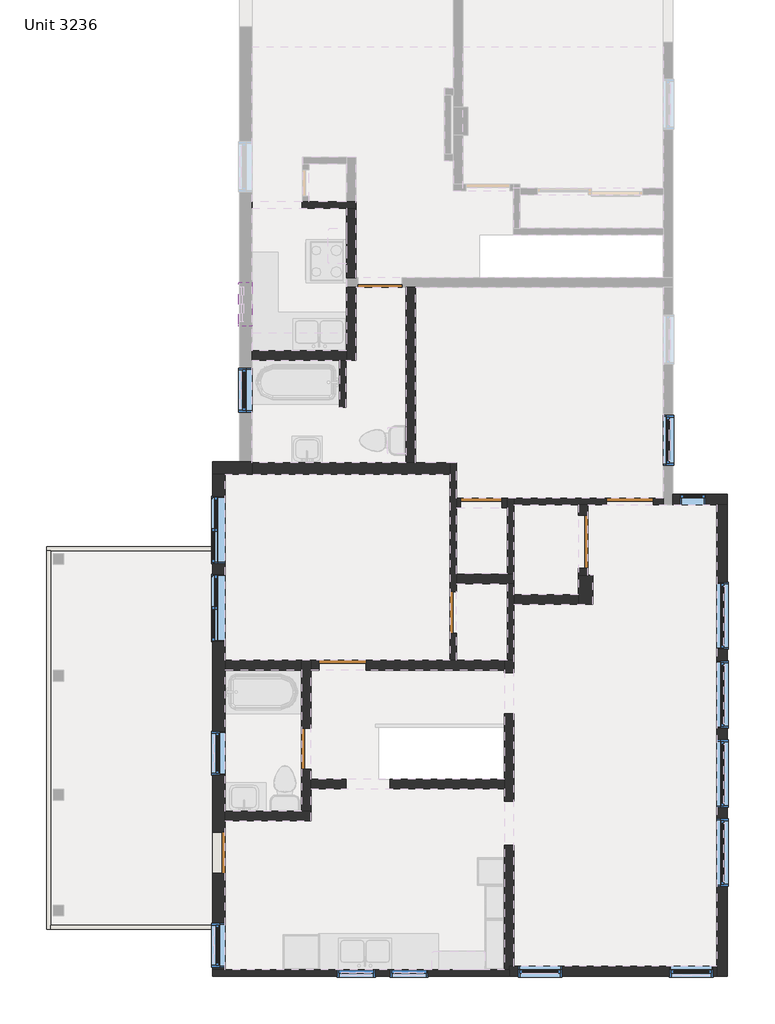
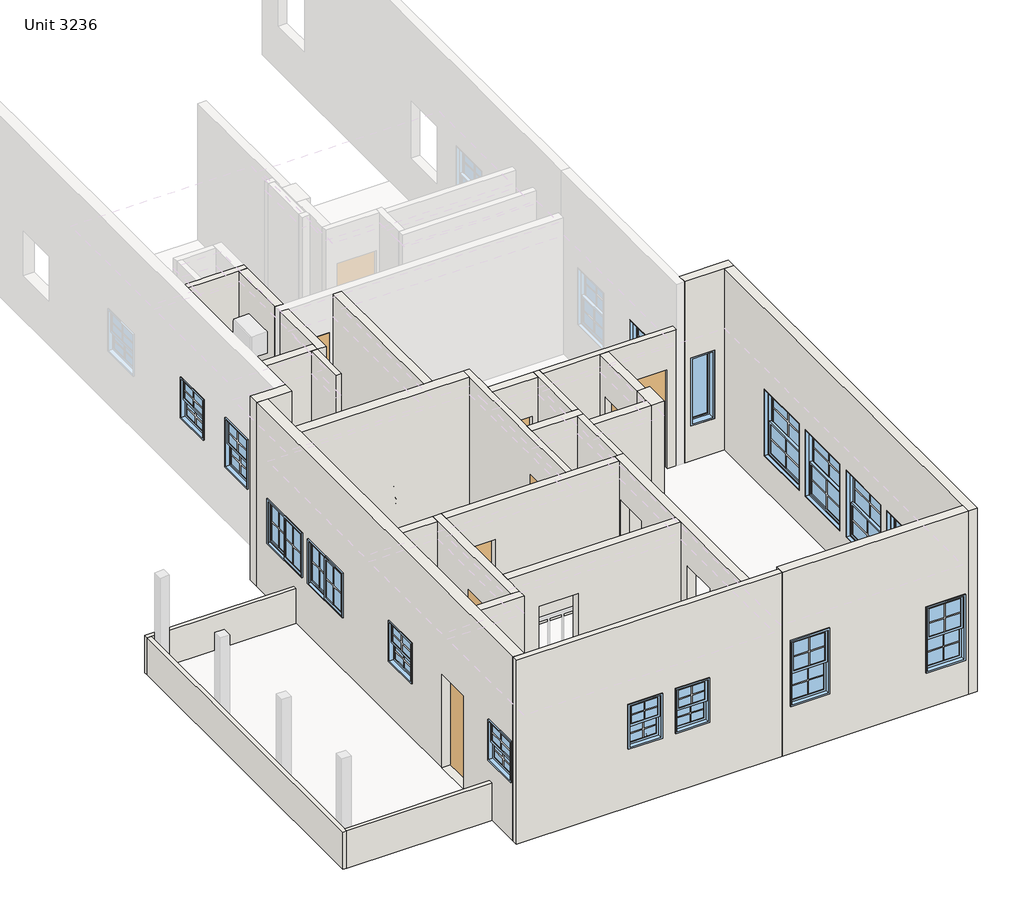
# One storey, part 1 of 3: 31 walls, 16 windows, 8 doors.
"""IFC4 building model written with IfcOpenShell, lengths in millimetres."""

from ifc_helpers import new_model, si_unit, frame, origin, place, context, project, spatial, polyline, outline, extrude, faceted_brep, transform, mapped, element, save
from components import door_a2d1f694, door_2ab74324, door_61c99268, door_cfc43ca0, door_2963ea5e, door_46b09886, door_4f417b9d, window_eb113033, window_a33a3c81, window_10d21590, window_480b3f3e, window_862b37cb, window_a6173331, window_cbb5bfc6, window_e64f82fc

model = new_model("IFC4")

# Units and contexts
model_context = context("Model", 3, world=origin())
ifc_project = project(units=[si_unit("LENGTHUNIT", "METRE", prefix="MILLI")], contexts=[model_context])

# Site, building, storey
site = spatial("IfcSite", under=ifc_project)
building = spatial("IfcBuilding", under=site)
storey = spatial("IfcBuildingStorey", under=building, Name="Unit 3236", Elevation=2895.6)

# Doors
placement = place(None, origin())
door_shape = door_a2d1f694(model_context)
element("IfcDoor", 1, ObjectType="Planitar - Single Door_Flush Panel : 2'-4\" x 6'-3\"", at=placement, inside=storey, context=model_context, shape_type="MappedRepresentation", body=[
    mapped(door_shape, transform((-3872.9302402, -7557.1461647, 2895.6), x_axis=(0.0, 1.0, 0.0), y_axis=(-1.0, 0.0, 0.0), z_axis=(0.0, 0.0, 1.0))),
])
door_2_shape = door_2ab74324(model_context)
element("IfcDoor", 2, ObjectType="Planitar - Single Door_Flush Panel : 2'-4\" x 6'-8\"", at=placement, inside=storey, context=model_context, shape_type="MappedRepresentation", body=[
    mapped(door_2_shape, transform((191.0697598, -3391.5461647, 2895.6), x_axis=(0.0, -1.0, 0.0), y_axis=(1.0, 0.0, 0.0), z_axis=(0.0, 0.0, 1.0))),
])
door_3_shape = door_61c99268(model_context)
element("IfcDoor", 3, ObjectType="Planitar - Single Door_Flush Panel : 2'-4\" x 6'-8\"", at=placement, inside=storey, context=model_context, shape_type="MappedRepresentation", body=[
    mapped(door_3_shape, transform((-2355.2802402, -5753.7461647, 2895.6), x_axis=(0.0, -1.0, 0.0), y_axis=(1.0, 0.0, 0.0), z_axis=(0.0, 0.0, 1.0))),
])
element("IfcDoor", 4, ObjectType="Planitar - Single Door_Flush Panel : 2'-4\" x 6'-8\"", at=placement, inside=storey, context=model_context, shape_type="MappedRepresentation", body=[
    mapped(door_3_shape, transform((673.6697598, -1492.8961647, 2895.6), x_axis=(-1.0, 0.0, 0.0), y_axis=(0.0, -1.0, 0.0), z_axis=(0.0, 0.0, 1.0))),
])
door_4_shape = door_cfc43ca0(model_context)
element("IfcDoor", 5, ObjectType="Planitar - Single Door_Flush Panel : 2'-6\" x 6'-8\"", at=placement, inside=storey, context=model_context, shape_type="MappedRepresentation", body=[
    mapped(door_4_shape, transform((-1082.1052402, 2323.4538353, 2895.6), x_axis=(-1.0, 0.0, 0.0), y_axis=(0.0, -1.0, 0.0), z_axis=(0.0, 0.0, 1.0))),
])
door_5_shape = door_2963ea5e(model_context)
element("IfcDoor", 6, ObjectType="Planitar - Single Door_Flush Panel : 2'-8\" x 6'-8\"", at=placement, inside=storey, context=model_context, shape_type="MappedRepresentation", body=[
    mapped(door_5_shape, transform((-1732.9802402, -4305.9461647, 2895.6), x_axis=(1.0, 0.0, 0.0), y_axis=(0.0, 1.0, 0.0), z_axis=(0.0, 0.0, 1.0))),
])
door_6_shape = door_46b09886(model_context)
element("IfcDoor", 7, ObjectType="Planitar - Single Door_Flush Panel : 2'-8\" x 6'-8\"", at=placement, inside=storey, context=model_context, shape_type="MappedRepresentation", body=[
    mapped(door_6_shape, transform((3251.7697598, -1467.4961647, 2895.6), x_axis=(1.0, 0.0, 0.0), y_axis=(0.0, 1.0, 0.0), z_axis=(0.0, 0.0, 1.0))),
])
door_7_shape = door_4f417b9d(model_context)
element("IfcDoor", 8, ObjectType="Planitar - Single Door_Flush Panel : 3'-0\" x 6'-8\"", at=placement, inside=storey, context=model_context, shape_type="MappedRepresentation", body=[
    mapped(door_7_shape, transform((2438.9697598, -2165.9961647, 2895.6), x_axis=(0.0, 1.0, 0.0), y_axis=(-1.0, 0.0, 0.0), z_axis=(0.0, 0.0, 1.0))),
])

# Walls
element("IfcWall", 9, ObjectType="Planitar - Generic 7\"", at=placement, inside=storey, context=model_context, shape_type="Brep", body=[
    faceted_brep([(3994.7197598, -1524.6461647, 2844.8), (4763.0697598, -1524.6461647, 2844.8), (4940.8697598, -1524.6461647, 2844.8), (4940.8697598, -1524.6461647, 6604.0), (4763.0697598, -1524.6461647, 6604.0), (3994.7197598, -1524.6461647, 6604.0), (3994.7197598, -1524.6461647, 2895.6), (4115.3697598, -1524.6461647, 3606.8), (4115.3697598, -1524.6461647, 5003.8), (4572.5697598, -1524.6461647, 5003.8), (4572.5697598, -1524.6461647, 3606.8), (4940.8697598, -1346.8461647, 2844.8), (3994.7197598, -1346.8461647, 2844.8), (3994.7197598, -1346.8461647, 6604.0), (4940.8697598, -1346.8461647, 6604.0), (4115.3697598, -1346.8461647, 5003.8), (4115.3697598, -1346.8461647, 3606.8), (4572.5697598, -1346.8461647, 3606.8), (4572.5697598, -1346.8461647, 5003.8)], [[[0, 1, 2, 3, 4, 5, 6], [7, 8, 9, 10]], [[11, 12, 13, 14], [15, 16, 17, 18]], [[2, 1, 0, 12, 11]], [[5, 4, 3, 14, 13]], [[3, 2, 11, 14]], [[7, 16, 15, 8]], [[8, 15, 18, 9]], [[16, 7, 10, 17]], [[12, 0, 6, 5, 13]], [[17, 10, 9, 18]]]),
])
element("IfcWall", 10, ObjectType="Planitar - Generic 7\"", at=placement, inside=storey, context=model_context, shape_type="Brep", body=[
    faceted_brep([(4763.0697598, -1524.6461647, 2844.8), (4763.0697598, -9519.2961647, 2844.8), (4763.0697598, -9697.0961647, 2844.8), (4763.0697598, -9697.0961647, 6604.0), (4763.0697598, -9519.2961647, 6604.0), (4763.0697598, -1524.6461647, 6604.0), (4763.0697598, -6966.5961647, 4953.0), (4763.0697598, -8134.9961647, 4953.0), (4763.0697598, -8134.9961647, 3581.4), (4763.0697598, -6966.5961647, 3581.4), (4763.0697598, -5601.3461647, 4953.0), (4763.0697598, -6769.7461647, 4953.0), (4763.0697598, -6769.7461647, 3581.4), (4763.0697598, -5601.3461647, 3581.4), (4763.0697598, -4229.7461647, 4953.0), (4763.0697598, -5398.1461647, 4953.0), (4763.0697598, -5398.1461647, 3581.4), (4763.0697598, -4229.7461647, 3581.4), (4763.0697598, -2864.4961647, 4953.0), (4763.0697598, -4032.8961647, 4953.0), (4763.0697598, -4032.8961647, 3581.4), (4763.0697598, -2864.4961647, 3581.4), (4940.8697598, -1524.6461647, 2844.8), (4940.8697598, -1524.6461647, 6604.0), (4940.8697598, -9697.0961647, 6604.0), (4940.8697598, -9697.0961647, 2844.8), (4940.8697598, -6966.5961647, 4953.0), (4940.8697598, -6966.5961647, 3581.4), (4940.8697598, -8134.9961647, 3581.4), (4940.8697598, -8134.9961647, 4953.0), (4940.8697598, -5601.3461647, 4953.0), (4940.8697598, -5601.3461647, 3581.4), (4940.8697598, -6769.7461647, 3581.4), (4940.8697598, -6769.7461647, 4953.0), (4940.8697598, -4229.7461647, 4953.0), (4940.8697598, -4229.7461647, 3581.4), (4940.8697598, -5398.1461647, 3581.4), (4940.8697598, -5398.1461647, 4953.0), (4940.8697598, -2864.4961647, 4953.0), (4940.8697598, -2864.4961647, 3581.4), (4940.8697598, -4032.8961647, 3581.4), (4940.8697598, -4032.8961647, 4953.0)], [[[0, 1, 2, 3, 4, 5], [6, 7, 8, 9], [10, 11, 12, 13], [14, 15, 16, 17], [18, 19, 20, 21]], [[22, 23, 24, 25], [26, 27, 28, 29], [30, 31, 32, 33], [34, 35, 36, 37], [38, 39, 40, 41]], [[2, 1, 0, 22, 25]], [[5, 4, 3, 24, 23]], [[0, 5, 23, 22]], [[3, 2, 25, 24]], [[27, 26, 6, 9]], [[28, 27, 9, 8]], [[29, 28, 8, 7]], [[26, 29, 7, 6]], [[31, 30, 10, 13]], [[32, 31, 13, 12]], [[33, 32, 12, 11]], [[30, 33, 11, 10]], [[35, 34, 14, 17]], [[36, 35, 17, 16]], [[37, 36, 16, 15]], [[34, 37, 15, 14]], [[39, 38, 18, 21]], [[40, 39, 21, 20]], [[41, 40, 20, 19]], [[38, 41, 19, 18]]]),
])
element("IfcWall", 11, ObjectType="Planitar - Generic 7\"", at=placement, inside=storey, context=model_context, shape_type="Brep", body=[
    faceted_brep([(4763.0697598, -9519.2961647, 2844.8), (1162.6197598, -9519.2961647, 2844.8), (1162.6197598, -9519.2961647, 2895.6), (1162.6197598, -9519.2961647, 5689.6), (1162.6197598, -9519.2961647, 6604.0), (4763.0697598, -9519.2961647, 6604.0), (2077.0197598, -9519.2961647, 3810.0), (2077.0197598, -9519.2961647, 5156.2), (1315.0197598, -9519.2961647, 5156.2), (1315.0197598, -9519.2961647, 3810.0), (3937.5697598, -9519.2961647, 3581.4), (4699.5697598, -9519.2961647, 3581.4), (4699.5697598, -9519.2961647, 4927.6), (3937.5697598, -9519.2961647, 4927.6), (1162.6197598, -9697.0961647, 2844.8), (4763.0697598, -9697.0961647, 2844.8), (4763.0697598, -9697.0961647, 6604.0), (1162.6197598, -9697.0961647, 6604.0), (2077.0197598, -9697.0961647, 5156.2), (2077.0197598, -9697.0961647, 3810.0), (1315.0197598, -9697.0961647, 3810.0), (1315.0197598, -9697.0961647, 5156.2), (4699.5697598, -9697.0961647, 3581.4), (3937.5697598, -9697.0961647, 3581.4), (3937.5697598, -9697.0961647, 4927.6), (4699.5697598, -9697.0961647, 4927.6), (1162.6197598, -9582.7961647, 2844.8), (1162.6197598, -9582.7961647, 6604.0)], [[[0, 1, 2, 3, 4, 5], [6, 7, 8, 9], [10, 11, 12, 13]], [[14, 15, 16, 17], [18, 19, 20, 21], [22, 23, 24, 25]], [[1, 0, 15, 14, 26]], [[5, 4, 27, 17, 16]], [[0, 5, 16, 15]], [[19, 18, 7, 6]], [[20, 19, 6, 9]], [[21, 20, 9, 8]], [[18, 21, 8, 7]], [[22, 11, 10, 23]], [[23, 10, 13, 24]], [[24, 13, 12, 25]], [[11, 22, 25, 12]], [[1, 26, 14, 17, 27, 4, 3, 2]]]),
])
element("IfcWall", 12, ObjectType="Planitar - Generic 4 1/2\"", at=placement, inside=storey, context=model_context, shape_type="Brep", body=[
    faceted_brep([(1162.6197598, -9582.7961647, 6604.0), (1162.6197598, -9582.7961647, 5689.6), (1162.6197598, -9582.7961647, 2895.6), (1162.6197598, -9582.7961647, 2844.8), (-3764.9802402, -9582.7961647, 2844.8), (-3980.8802402, -9582.7961647, 2844.8), (-3980.8802402, -9582.7961647, 6604.0), (-3764.9802402, -9582.7961647, 6604.0), (-1161.4802402, -9582.7961647, 4953.0), (-1821.8802402, -9582.7961647, 4953.0), (-1821.8802402, -9582.7961647, 4038.6), (-1161.4802402, -9582.7961647, 4038.6), (-247.0802402, -9582.7961647, 4953.0), (-907.4802402, -9582.7961647, 4953.0), (-907.4802402, -9582.7961647, 4038.6), (-247.0802402, -9582.7961647, 4038.6), (1162.6197598, -9697.0961647, 2844.8), (1162.6197598, -9697.0961647, 6604.0), (-3980.8802402, -9697.0961647, 6604.0), (-3980.8802402, -9697.0961647, 2844.8), (-1161.4802402, -9697.0961647, 4953.0), (-1161.4802402, -9697.0961647, 4038.6), (-1821.8802402, -9697.0961647, 4038.6), (-1821.8802402, -9697.0961647, 4953.0), (-247.0802402, -9697.0961647, 4953.0), (-247.0802402, -9697.0961647, 4038.6), (-907.4802402, -9697.0961647, 4038.6), (-907.4802402, -9697.0961647, 4953.0)], [[[0, 1, 2, 3, 4, 5, 6, 7], [8, 9, 10, 11], [12, 13, 14, 15]], [[16, 17, 18, 19], [20, 21, 22, 23], [24, 25, 26, 27]], [[5, 4, 3, 16, 19]], [[0, 7, 6, 18, 17]], [[6, 5, 19, 18]], [[21, 20, 8, 11]], [[22, 21, 11, 10]], [[23, 22, 10, 9]], [[20, 23, 9, 8]], [[25, 24, 12, 15]], [[26, 25, 15, 14]], [[27, 26, 14, 13]], [[24, 27, 13, 12]], [[0, 17, 16, 3, 2, 1]]]),
])
element("IfcWall", 13, ObjectType="Planitar - Generic 8 1/2\"", at=placement, inside=storey, context=model_context, shape_type="Brep", body=[
    faceted_brep([(-3764.9802402, -9582.7961647, 2844.8), (-3764.9802402, -997.5961647, 2844.8), (-3764.9802402, -997.5961647, 6604.0), (-3764.9802402, -9582.7961647, 6604.0), (-3764.9802402, -7912.7461647, 2895.6), (-3764.9802402, -7912.7461647, 4800.6), (-3764.9802402, -7201.5461647, 4800.6), (-3764.9802402, -7201.5461647, 2895.6), (-3764.9802402, -1375.4993647, 4876.8), (-3764.9802402, -1375.4993647, 3962.4), (-3764.9802402, -2543.8993647, 3962.4), (-3764.9802402, -2543.8993647, 4876.8), (-3764.9802402, -2731.1461647, 4876.8), (-3764.9802402, -2731.1461647, 3962.4), (-3764.9802402, -3899.5461647, 3962.4), (-3764.9802402, -3899.5461647, 4876.8), (-3764.9802402, -6210.9461647, 4851.4), (-3764.9802402, -5448.9461647, 4851.4), (-3764.9802402, -5448.9461647, 4013.2), (-3764.9802402, -6210.9461647, 4013.2), (-3764.9802402, -9538.3461647, 4851.4), (-3764.9802402, -8776.3461647, 4851.4), (-3764.9802402, -8776.3461647, 4013.2), (-3764.9802402, -9538.3461647, 4013.2), (-3980.8802402, -9582.7961647, 2844.8), (-3980.8802402, -9582.7961647, 6604.0), (-3980.8802402, -997.5961647, 6604.0), (-3980.8802402, -997.5961647, 2844.8), (-3980.8802402, -2248.5461647, 2844.8), (-3980.8802402, -2324.7461647, 2844.8), (-3980.8802402, -8808.0961647, 2844.8), (-3980.8802402, -8884.2961647, 2844.8), (-3980.8802402, -7912.7461647, 2895.6), (-3980.8802402, -7201.5461647, 2895.6), (-3980.8802402, -7201.5461647, 4800.6), (-3980.8802402, -7912.7461647, 4800.6), (-3980.8802402, -1375.4993647, 4876.8), (-3980.8802402, -2543.8993647, 4876.8), (-3980.8802402, -2543.8993647, 3962.4), (-3980.8802402, -1375.4993647, 3962.4), (-3980.8802402, -2731.1461647, 4876.8), (-3980.8802402, -3899.5461647, 4876.8), (-3980.8802402, -3899.5461647, 3962.4), (-3980.8802402, -2731.1461647, 3962.4), (-3980.8802402, -6210.9461647, 4851.4), (-3980.8802402, -6210.9461647, 4013.2), (-3980.8802402, -5448.9461647, 4013.2), (-3980.8802402, -5448.9461647, 4851.4), (-3980.8802402, -9538.3461647, 4851.4), (-3980.8802402, -9538.3461647, 4013.2), (-3980.8802402, -8776.3461647, 4013.2), (-3980.8802402, -8776.3461647, 4851.4)], [[[0, 1, 2, 3], [4, 5, 6, 7], [8, 9, 10, 11], [12, 13, 14, 15], [16, 17, 18, 19], [20, 21, 22, 23]], [[24, 25, 26, 27, 28, 29, 30, 31], [32, 33, 34, 35], [36, 37, 38, 39], [40, 41, 42, 43], [44, 45, 46, 47], [48, 49, 50, 51]], [[1, 0, 24, 31, 30, 29, 28, 27]], [[3, 2, 26, 25]], [[0, 3, 25, 24]], [[33, 32, 4, 7]], [[34, 33, 7, 6]], [[35, 34, 6, 5]], [[32, 35, 5, 4]], [[9, 8, 36, 39]], [[10, 9, 39, 38]], [[11, 10, 38, 37]], [[8, 11, 37, 36]], [[13, 12, 40, 43]], [[14, 13, 43, 42]], [[15, 14, 42, 41]], [[12, 15, 41, 40]], [[45, 44, 16, 19]], [[46, 45, 19, 18]], [[47, 46, 18, 17]], [[44, 47, 17, 16]], [[49, 48, 20, 23]], [[50, 49, 23, 22]], [[51, 50, 22, 21]], [[48, 51, 21, 20]], [[2, 1, 27, 26]]]),
])
element("IfcWall", 14, ObjectType="Planitar - Generic 6 1/2\"", at=placement, inside=storey, context=model_context, shape_type="Brep", body=[
    faceted_brep([(1245.1697598, -4432.9461647, 4927.6), (1245.1697598, -4432.9461647, 2895.6), (1245.1697598, -4223.3961647, 2895.6), (1245.1697598, -4223.3961647, 5689.6), (1245.1697598, -9519.2961647, 5689.6), (1245.1697598, -9519.2961647, 2895.6), (1245.1697598, -7423.7961647, 2895.6), (1245.1697598, -7423.7961647, 4927.6), (1245.1697598, -6661.7961647, 4927.6), (1245.1697598, -6661.7961647, 2895.6), (1245.1697598, -5144.1461647, 2895.6), (1245.1697598, -5144.1461647, 4927.6), (1080.0697598, -4223.3961647, 2895.6), (1080.0697598, -4388.4961647, 2895.6), (1080.0697598, -4432.9461647, 2895.6), (1080.0697598, -4432.9461647, 4927.6), (1080.0697598, -5144.1461647, 4927.6), (1080.0697598, -5144.1461647, 2895.6), (1080.0697598, -6280.7961647, 2895.6), (1080.0697598, -6445.8961647, 2895.6), (1080.0697598, -6661.7961647, 2895.6), (1080.0697598, -6661.7961647, 4927.6), (1080.0697598, -7423.7961647, 4927.6), (1080.0697598, -7423.7961647, 2895.6), (1080.0697598, -9582.7961647, 2895.6), (1080.0697598, -9582.7961647, 5689.6), (1080.0697598, -6445.8961647, 5689.6), (1080.0697598, -6280.7961647, 5689.6), (1080.0697598, -4388.4961647, 5689.6), (1080.0697598, -4223.3961647, 5689.6), (1162.6197598, -9519.2961647, 2895.6), (1162.6197598, -9582.7961647, 2895.6), (1130.8697598, -4223.3961647, 2895.6), (1130.8697598, -4223.3961647, 5689.6), (1162.6197598, -9582.7961647, 5689.6), (1162.6197598, -9519.2961647, 5689.6)], [[[0, 1, 2, 3, 4, 5, 6, 7, 8, 9, 10, 11]], [[12, 13, 14, 15, 16, 17, 18, 19, 20, 21, 22, 23, 24, 25, 26, 27, 28, 29]], [[24, 23, 6, 5, 30, 31]], [[10, 9, 20, 19, 18, 17]], [[2, 1, 14, 13, 12, 32]], [[4, 3, 33, 29, 28, 27, 26, 25, 34, 35]], [[5, 4, 35, 30]], [[35, 34, 31, 30]], [[34, 25, 24, 31]], [[3, 2, 32, 12, 29, 33]], [[9, 8, 21, 20]], [[7, 6, 23, 22]], [[8, 7, 22, 21]], [[17, 16, 11, 10]], [[15, 14, 1, 0]], [[16, 15, 0, 11]]]),
])
element("IfcWall", 15, ObjectType="Planitar - Generic 6 1/2\"", at=placement, inside=storey, context=model_context, shape_type="Brep", body=[
    faceted_brep([(-3764.9802402, -7004.6961647, 2895.6), (-2272.7302402, -7004.6961647, 2895.6), (-2272.7302402, -7004.6961647, 5689.6), (-3764.9802402, -7004.6961647, 5689.6), (-3764.9802402, -6839.5961647, 2895.6), (-3764.9802402, -6839.5961647, 5689.6), (-2437.8302402, -6839.5961647, 5689.6), (-2272.7302402, -6839.5961647, 5689.6), (-2272.7302402, -6839.5961647, 2895.6), (-2437.8302402, -6839.5961647, 2895.6)], [[[0, 1, 2, 3]], [[4, 5, 6, 7, 8, 9]], [[1, 0, 4, 9, 8]], [[3, 2, 7, 6, 5]], [[0, 3, 5, 4]], [[2, 1, 8, 7]]]),
])
element("IfcWall", 16, ObjectType="Planitar - Generic 6 1/2\"", at=placement, inside=storey, context=model_context, shape_type="Brep", body=[
    faceted_brep([(-2272.7302402, -6839.5961647, 2895.6), (-2272.7302402, -6445.8961647, 2895.6), (-2272.7302402, -6280.7961647, 2895.6), (-2272.7302402, -6109.3461647, 2895.6), (-2272.7302402, -6109.3461647, 4927.6), (-2272.7302402, -5398.1461647, 4927.6), (-2272.7302402, -5398.1461647, 2895.6), (-2272.7302402, -4388.4961647, 2895.6), (-2272.7302402, -4223.3961647, 2895.6), (-2272.7302402, -4223.3961647, 5689.6), (-2272.7302402, -4388.4961647, 5689.6), (-2272.7302402, -6280.7961647, 5689.6), (-2272.7302402, -6445.8961647, 5689.6), (-2272.7302402, -6839.5961647, 5689.6), (-2437.8302402, -6109.3461647, 4927.6), (-2437.8302402, -6109.3461647, 2895.6), (-2437.8302402, -6839.5961647, 2895.6), (-2437.8302402, -6839.5961647, 5689.6), (-2437.8302402, -4388.4961647, 5689.6), (-2437.8302402, -4223.3961647, 5689.6), (-2437.8302402, -4223.3961647, 2895.6), (-2437.8302402, -4388.4961647, 2895.6), (-2437.8302402, -5398.1461647, 2895.6), (-2437.8302402, -5398.1461647, 4927.6)], [[[0, 1, 2, 3, 4, 5, 6, 7, 8, 9, 10, 11, 12, 13]], [[14, 15, 16, 17, 18, 19, 20, 21, 22, 23]], [[16, 15, 3, 2, 1, 0]], [[22, 21, 20, 8, 7, 6]], [[13, 12, 11, 10, 9, 19, 18, 17]], [[0, 13, 17, 16]], [[9, 8, 20, 19]], [[4, 3, 15, 14]], [[5, 4, 14, 23]], [[6, 5, 23, 22]]]),
])
element("IfcWall", 17, ObjectType="Planitar - Generic 6 1/2\"", at=placement, inside=storey, context=model_context, shape_type="Brep", body=[
    faceted_brep([(-1326.5802402, -4388.4961647, 4927.6), (-1326.5802402, -4388.4961647, 2895.6), (1080.0697598, -4388.4961647, 2895.6), (1080.0697598, -4388.4961647, 5689.6), (-2272.7302402, -4388.4961647, 5689.6), (-2272.7302402, -4388.4961647, 2895.6), (-2139.3802402, -4388.4961647, 2895.6), (-2139.3802402, -4388.4961647, 4927.6), (1080.0697598, -4223.3961647, 2895.6), (248.2197598, -4223.3961647, 2895.6), (133.9197598, -4223.3961647, 2895.6), (-1326.5802402, -4223.3961647, 2895.6), (-1326.5802402, -4223.3961647, 4927.6), (-2139.3802402, -4223.3961647, 4927.6), (-2139.3802402, -4223.3961647, 2895.6), (-2272.7302402, -4223.3961647, 2895.6), (-2272.7302402, -4223.3961647, 5689.6), (133.9197598, -4223.3961647, 5689.6), (248.2197598, -4223.3961647, 5689.6), (1080.0697598, -4223.3961647, 5689.6)], [[[0, 1, 2, 3, 4, 5, 6, 7]], [[8, 9, 10, 11, 12, 13, 14, 15, 16, 17, 18, 19]], [[6, 5, 15, 14]], [[2, 1, 11, 10, 9, 8]], [[4, 3, 19, 18, 17, 16]], [[5, 4, 16, 15]], [[3, 2, 8, 19]], [[12, 11, 1, 0]], [[13, 12, 0, 7]], [[14, 13, 7, 6]]]),
])
element("IfcWall", 18, ObjectType="Planitar - Generic 6 1/2\"", at=placement, inside=storey, context=model_context, shape_type="SweptSolid", body=[
    extrude(outline(polyline([(-3764.9802402, -4223.3961647), (-2437.8302402, -4223.3961647), (-2437.8302402, -4388.4961647), (-3764.9802402, -4388.4961647), (-3764.9802402, -4223.3961647)])), frame((0.0, 0.0, 2895.6), z_axis=(0.0, 0.0, 1.0), x_axis=(1.0, 0.0, 0.0)), (0.0, 0.0, 1.0), 2794.0),
])
element("IfcWall", 19, ObjectType="Planitar - Generic 6 1/2\"", at=placement, inside=storey, context=model_context, shape_type="SweptSolid", body=[
    extrude(outline(polyline([(2895.6, -2272.7302402), (2895.6, -1669.4802402), (4927.6, -1669.4802402), (4927.6, -907.4802402), (2895.6, -907.4802402), (2895.6, 1080.0697598), (5689.6, 1080.0697598), (5689.6, -2272.7302402), (2895.6, -2272.7302402)])), frame((0.0, -6445.8961647, 0.0), z_axis=(0.0, 1.0, 0.0), x_axis=(0.0, 0.0, 1.0)), (0.0, 0.0, 1.0), 165.1),
])
element("IfcWall", 20, ObjectType="Planitar - Generic 4 1/2\"", at=placement, inside=storey, context=model_context, shape_type="Brep", body=[
    faceted_brep([(248.2197598, -4223.3961647, 2895.6), (248.2197598, -3747.1461647, 2895.6), (248.2197598, -3747.1461647, 4927.6), (248.2197598, -3035.9461647, 4927.6), (248.2197598, -3035.9461647, 2895.6), (248.2197598, -2889.8961647, 2895.6), (248.2197598, -2724.7961647, 2895.6), (248.2197598, -1575.4461647, 2895.6), (248.2197598, -1410.3461647, 2895.6), (248.2197598, -794.3961647, 2895.6), (248.2197598, -794.3961647, 5689.6), (248.2197598, -1410.3461647, 5689.6), (248.2197598, -1575.4461647, 5689.6), (248.2197598, -2724.7961647, 5689.6), (248.2197598, -2889.8961647, 5689.6), (248.2197598, -4223.3961647, 5689.6), (133.9197598, -3747.1461647, 4927.6), (133.9197598, -3747.1461647, 2895.6), (133.9197598, -4223.3961647, 2895.6), (133.9197598, -4223.3961647, 5689.6), (133.9197598, -997.5961647, 5689.6), (133.9197598, -794.3961647, 5689.6), (133.9197598, -794.3961647, 2895.6), (133.9197598, -997.5961647, 2895.6), (133.9197598, -3035.9461647, 2895.6), (133.9197598, -3035.9461647, 4927.6)], [[[0, 1, 2, 3, 4, 5, 6, 7, 8, 9, 10, 11, 12, 13, 14, 15]], [[16, 17, 18, 19, 20, 21, 22, 23, 24, 25]], [[18, 17, 1, 0]], [[24, 23, 22, 9, 8, 7, 6, 5, 4]], [[15, 14, 13, 12, 11, 10, 21, 20, 19]], [[0, 15, 19, 18]], [[2, 1, 17, 16]], [[3, 2, 16, 25]], [[4, 3, 25, 24]], [[10, 9, 22, 21]]]),
])
element("IfcWall", 21, ObjectType="Planitar - Generic 6 1/2\"", at=placement, inside=storey, context=model_context, shape_type="Brep", body=[
    faceted_brep([(248.2197598, -2889.8961647, 2895.6), (1130.8697598, -2889.8961647, 2895.6), (1245.1697598, -2889.8961647, 2895.6), (1245.1697598, -2889.8961647, 5689.6), (1130.8697598, -2889.8961647, 5689.6), (248.2197598, -2889.8961647, 5689.6), (248.2197598, -2724.7961647, 2895.6), (248.2197598, -2724.7961647, 5689.6), (1130.8697598, -2724.7961647, 5689.6), (1245.1697598, -2724.7961647, 5689.6), (1245.1697598, -2724.7961647, 2895.6), (1130.8697598, -2724.7961647, 2895.6)], [[[0, 1, 2, 3, 4, 5]], [[6, 7, 8, 9, 10, 11]], [[2, 1, 0, 6, 11, 10]], [[5, 4, 3, 9, 8, 7]], [[0, 5, 7, 6]], [[3, 2, 10, 9]]]),
])
element("IfcWall", 22, ObjectType="Planitar - Generic 4 1/2\"", at=placement, inside=storey, context=model_context, shape_type="Brep", body=[
    faceted_brep([(1245.1697598, -2724.7961647, 2895.6), (1245.1697598, -1524.6461647, 2895.6), (1245.1697598, -1410.3461647, 2895.6), (1245.1697598, -1410.3461647, 5689.6), (1245.1697598, -1524.6461647, 5689.6), (1245.1697598, -2724.7961647, 5689.6), (1130.8697598, -2724.7961647, 2895.6), (1130.8697598, -2724.7961647, 5689.6), (1130.8697598, -1575.4461647, 5689.6), (1130.8697598, -1410.3461647, 5689.6), (1130.8697598, -1410.3461647, 2895.6), (1130.8697598, -1575.4461647, 2895.6)], [[[0, 1, 2, 3, 4, 5]], [[6, 7, 8, 9, 10, 11]], [[2, 1, 0, 6, 11, 10]], [[5, 4, 3, 9, 8, 7]], [[0, 5, 7, 6]], [[3, 2, 10, 9]]]),
])
element("IfcWall", 23, ObjectType="Planitar - Generic 6 1/2\"", at=placement, inside=storey, context=model_context, shape_type="SweptSolid", body=[
    extrude(outline(polyline([(5689.6, 1130.8697598), (5689.6, 248.2197598), (2895.6, 248.2197598), (2895.6, 318.0697598), (4927.6, 318.0697598), (4927.6, 1029.2697598), (2895.6, 1029.2697598), (2895.6, 1130.8697598), (5689.6, 1130.8697598)])), frame((0.0, -1575.4461647, 0.0), z_axis=(0.0, 1.0, 0.0), x_axis=(0.0, 0.0, 1.0)), (0.0, 0.0, 1.0), 165.1),
])
element("IfcWall", 24, ObjectType="Planitar - Generic 4 1/2\"", at=placement, inside=storey, context=model_context, shape_type="Brep", body=[
    faceted_brep([(1245.1697598, -4223.3961647, 2895.6), (1245.1697598, -3245.4961647, 2895.6), (1245.1697598, -3080.3961647, 2895.6), (1245.1697598, -2889.8961647, 2895.6), (1245.1697598, -2889.8961647, 5689.6), (1245.1697598, -3080.3961647, 5689.6), (1245.1697598, -3245.4961647, 5689.6), (1245.1697598, -4223.3961647, 5689.6), (1130.8697598, -4223.3961647, 2895.6), (1130.8697598, -4223.3961647, 5689.6), (1130.8697598, -2889.8961647, 5689.6), (1130.8697598, -2889.8961647, 2895.6)], [[[0, 1, 2, 3, 4, 5, 6, 7]], [[8, 9, 10, 11]], [[3, 2, 1, 0, 8, 11]], [[7, 6, 5, 4, 10, 9]], [[0, 7, 9, 8]], [[4, 3, 11, 10]]]),
])
element("IfcWall", 25, ObjectType="Planitar - Generic 4 1/2\"", at=placement, inside=storey, context=model_context, shape_type="Brep", body=[
    faceted_brep([(3829.6197598, -1524.6461647, 5689.6), (2521.5197598, -1524.6461647, 5689.6), (2356.4197598, -1524.6461647, 5689.6), (1245.1697598, -1524.6461647, 5689.6), (1245.1697598, -1524.6461647, 2895.6), (2356.4197598, -1524.6461647, 2895.6), (2521.5197598, -1524.6461647, 2895.6), (2845.3697598, -1524.6461647, 2895.6), (2845.3697598, -1524.6461647, 4927.6), (3658.1697598, -1524.6461647, 4927.6), (3658.1697598, -1524.6461647, 2895.6), (3829.6197598, -1524.6461647, 2895.6), (1245.1697598, -1410.3461647, 5689.6), (3829.6197598, -1410.3461647, 5689.6), (3829.6197598, -1410.3461647, 2895.6), (3658.1697598, -1410.3461647, 2895.6), (3658.1697598, -1410.3461647, 4927.6), (2845.3697598, -1410.3461647, 4927.6), (2845.3697598, -1410.3461647, 2895.6), (1245.1697598, -1410.3461647, 2895.6)], [[[0, 1, 2, 3, 4, 5, 6, 7, 8, 9, 10, 11]], [[12, 13, 14, 15, 16, 17, 18, 19]], [[4, 19, 18, 7, 6, 5]], [[14, 11, 10, 15]], [[3, 2, 1, 0, 13, 12]], [[4, 3, 12, 19]], [[16, 9, 8, 17]], [[17, 8, 7, 18]], [[0, 11, 14, 13]], [[9, 16, 15, 10]]]),
])
element("IfcWall", 26, ObjectType="Planitar - Generic 6 1/2\"", at=placement, inside=storey, context=model_context, shape_type="SweptSolid", body=[
    extrude(outline(polyline([(-1524.6461647, 2895.6), (-1708.7961647, 2895.6), (-1708.7961647, 4927.6), (-2623.1961647, 4927.6), (-2623.1961647, 2895.6), (-2750.1961647, 2895.6), (-2750.1961647, 5689.6), (-1524.6461647, 5689.6), (-1524.6461647, 2895.6)])), frame((2356.4197598, 0.0, 0.0), z_axis=(1.0, 0.0, 0.0), x_axis=(0.0, 1.0, 0.0)), (0.0, 0.0, 1.0), 165.1),
])
element("IfcWall", 27, ObjectType="Planitar - Generic 6 1/2\"", at=placement, inside=storey, context=model_context, shape_type="SweptSolid", body=[
    extrude(outline(polyline([(2356.4197598, -3245.4961647), (1245.1697598, -3245.4961647), (1245.1697598, -3080.3961647), (2356.4197598, -3080.3961647), (2356.4197598, -3245.4961647)])), frame((0.0, 0.0, 2895.6), z_axis=(0.0, 0.0, 1.0), x_axis=(1.0, 0.0, 0.0)), (0.0, 0.0, 1.0), 2794.0),
])
element("IfcWall", 28, ObjectType="Planitar - Generic 10\"", at=placement, inside=storey, context=model_context, shape_type="Brep", body=[
    faceted_brep([(2610.4197598, -3245.4961647, 2895.6), (2610.4197598, -2750.1961647, 2895.6), (2610.4197598, -2750.1961647, 5689.6), (2610.4197598, -3245.4961647, 5689.6), (2356.4197598, -3245.4961647, 2895.6), (2356.4197598, -3245.4961647, 5689.6), (2356.4197598, -3080.3961647, 5689.6), (2356.4197598, -2750.1961647, 5689.6), (2356.4197598, -2750.1961647, 2895.6), (2356.4197598, -3080.3961647, 2895.6), (2521.5197598, -2750.1961647, 2895.6), (2521.5197598, -2750.1961647, 5689.6)], [[[0, 1, 2, 3]], [[4, 5, 6, 7, 8, 9]], [[1, 0, 4, 9, 8, 10]], [[2, 1, 10, 8, 7, 11]], [[3, 2, 11, 7, 6, 5]], [[0, 3, 5, 4]]]),
])
element("IfcWall", 29, ObjectType="Planitar - Generic 8\"", at=placement, inside=storey, context=model_context, shape_type="Brep", body=[
    faceted_brep([(-3301.4302402, -997.5961647, 2895.6), (133.9197598, -997.5961647, 2895.6), (133.9197598, -997.5961647, 5689.6), (-3301.4302402, -997.5961647, 5689.6), (-3301.4302402, -794.3961647, 2895.6), (-3301.4302402, -794.3961647, 5689.6), (-634.4302402, -794.3961647, 5689.6), (-469.3302402, -794.3961647, 5689.6), (133.9197598, -794.3961647, 5689.6), (133.9197598, -794.3961647, 2895.6), (-469.3302402, -794.3961647, 2895.6), (-634.4302402, -794.3961647, 2895.6)], [[[0, 1, 2, 3]], [[4, 5, 6, 7, 8, 9, 10, 11]], [[1, 0, 4, 11, 10, 9]], [[3, 2, 8, 7, 6, 5]], [[0, 3, 5, 4]], [[2, 1, 9, 8]]]),
])
element("IfcWall", 30, ObjectType="Planitar - Generic 6 1/2\"", at=placement, inside=storey, context=model_context, shape_type="SweptSolid", body=[
    extrude(outline(polyline([(-634.4302402, -794.3961647), (-634.4302402, 2240.9038353), (-469.3302402, 2240.9038353), (-469.3302402, -794.3961647), (-634.4302402, -794.3961647)])), frame((0.0, 0.0, 2895.6), z_axis=(0.0, 0.0, 1.0), x_axis=(1.0, 0.0, 0.0)), (0.0, 0.0, 1.0), 2794.0),
])
element("IfcWall", 31, ObjectType="Planitar - Generic 6 1/2\"", at=placement, inside=storey, context=model_context, shape_type="Brep", body=[
    faceted_brep([(-1663.1302402, 2240.9038353, 2895.6), (-1663.1302402, 1142.3538353, 2895.6), (-1663.1302402, 977.2538353, 2895.6), (-1663.1302402, 977.2538353, 5689.6), (-1663.1302402, 1142.3538353, 5689.6), (-1663.1302402, 2240.9038353, 5689.6), (-1498.0302402, 2240.9038353, 2895.6), (-1498.0302402, 2240.9038353, 5689.6), (-1498.0302402, 977.2538353, 5689.6), (-1498.0302402, 977.2538353, 2895.6)], [[[0, 1, 2, 3, 4, 5]], [[6, 7, 8, 9]], [[2, 1, 0, 6, 9]], [[5, 4, 3, 8, 7]], [[0, 5, 7, 6]], [[3, 2, 9, 8]]]),
])
element("IfcWall", 32, ObjectType="Planitar - Generic 6 1/2\"", at=placement, inside=storey, context=model_context, shape_type="Brep", body=[
    faceted_brep([(-1663.1302402, 1142.3538353, 2895.6), (-3301.4302402, 1142.3538353, 2895.6), (-3301.4302402, 1142.3538353, 5689.6), (-1663.1302402, 1142.3538353, 5689.6), (-1663.1302402, 977.2538353, 2895.6), (-1663.1302402, 977.2538353, 5689.6), (-1669.4802402, 977.2538353, 5689.6), (-1783.7802402, 977.2538353, 5689.6), (-3301.4302402, 977.2538353, 5689.6), (-3301.4302402, 977.2538353, 2895.6), (-1783.7802402, 977.2538353, 2895.6), (-1669.4802402, 977.2538353, 2895.6)], [[[0, 1, 2, 3]], [[4, 5, 6, 7, 8, 9, 10, 11]], [[1, 0, 4, 11, 10, 9]], [[3, 2, 8, 7, 6, 5]], [[0, 3, 5, 4]], [[2, 1, 9, 8]]]),
])
element("IfcWall", 33, ObjectType="Planitar - Generic 4 1/2\"", at=placement, inside=storey, context=model_context, shape_type="SweptSolid", body=[
    extrude(outline(polyline([(-1783.7802402, 164.4538353), (-1783.7802402, 977.2538353), (-1669.4802402, 977.2538353), (-1669.4802402, 164.4538353), (-1783.7802402, 164.4538353)])), frame((0.0, 0.0, 2895.6), z_axis=(0.0, 0.0, 1.0), x_axis=(1.0, 0.0, 0.0)), (0.0, 0.0, 1.0), 2794.0),
])
element("IfcWall", 34, ObjectType="Planitar - Generic 4 1/2\"", at=placement, inside=storey, context=model_context, shape_type="Brep", body=[
    faceted_brep([(-3301.4302402, 3612.5038353, 2895.6), (-3295.0802402, 3612.5038353, 2895.6), (-3295.0802402, 3612.5038353, 4927.6), (-2431.4802402, 3612.5038353, 4927.6), (-2431.4802402, 3612.5038353, 2895.6), (-1663.1302402, 3612.5038353, 2895.6), (-1498.0302402, 3612.5038353, 2895.6), (-1498.0302402, 3612.5038353, 5689.6), (-1663.1302402, 3612.5038353, 5689.6), (-3301.4302402, 3612.5038353, 5689.6), (-3295.0802402, 3726.8038353, 4927.6), (-3295.0802402, 3726.8038353, 2895.6), (-3301.4302402, 3726.8038353, 2895.6), (-3301.4302402, 3726.8038353, 5689.6), (-2425.1302402, 3726.8038353, 5689.6), (-2310.8302402, 3726.8038353, 5689.6), (-1663.1302402, 3726.8038353, 5689.6), (-1498.0302402, 3726.8038353, 5689.6), (-1498.0302402, 3726.8038353, 2895.6), (-1663.1302402, 3726.8038353, 2895.6), (-2310.8302402, 3726.8038353, 2895.6), (-2425.1302402, 3726.8038353, 2895.6), (-2431.4802402, 3726.8038353, 2895.6), (-2431.4802402, 3726.8038353, 4927.6)], [[[0, 1, 2, 3, 4, 5, 6, 7, 8, 9]], [[10, 11, 12, 13, 14, 15, 16, 17, 18, 19, 20, 21, 22, 23]], [[12, 11, 1, 0]], [[22, 21, 20, 19, 18, 6, 5, 4]], [[9, 8, 7, 17, 16, 15, 14, 13]], [[0, 9, 13, 12]], [[7, 6, 18, 17]], [[4, 3, 23, 22]], [[2, 1, 11, 10]], [[3, 2, 10, 23]]]),
])
element("IfcWall", 35, ObjectType="Planitar - Generic 6 1/2\"", at=placement, inside=storey, context=model_context, shape_type="SweptSolid", body=[
    extrude(outline(polyline([(-1663.1302402, 2406.0038353), (-1663.1302402, 3612.5038353), (-1498.0302402, 3612.5038353), (-1498.0302402, 2406.0038353), (-1663.1302402, 2406.0038353)])), frame((0.0, 0.0, 2895.6), z_axis=(0.0, 0.0, 1.0), x_axis=(1.0, 0.0, 0.0)), (0.0, 0.0, 1.0), 2794.0),
])
element("IfcWall", 36, ObjectType="Planitar - Generic 3\"", at=placement, inside=storey, context=model_context, shape_type="Brep", body=[
    faceted_brep([(-3980.8802402, -2248.5461647, 2844.8), (-6863.7802402, -2248.5461647, 2844.8), (-6863.7802402, -2248.5461647, 3606.8), (-3980.8802402, -2248.5461647, 3606.8), (-3980.8802402, -2324.7461647, 2844.8), (-3980.8802402, -2324.7461647, 3606.8), (-6787.5802402, -2324.7461647, 3606.8), (-6863.7802402, -2324.7461647, 3606.8), (-6863.7802402, -2324.7461647, 2844.8), (-6787.5802402, -2324.7461647, 2844.8)], [[[0, 1, 2, 3]], [[4, 5, 6, 7, 8, 9]], [[1, 0, 4, 9, 8]], [[3, 2, 7, 6, 5]], [[0, 3, 5, 4]], [[2, 1, 8, 7]]]),
])
element("IfcWall", 37, ObjectType="Planitar - Generic 3\"", at=placement, inside=storey, context=model_context, shape_type="Brep", body=[
    faceted_brep([(-6863.7802402, -2324.7461647, 2844.8), (-6863.7802402, -8884.2961647, 2844.8), (-6863.7802402, -8884.2961647, 3606.8), (-6863.7802402, -2324.7461647, 3606.8), (-6787.5802402, -2324.7461647, 2844.8), (-6787.5802402, -2324.7461647, 3606.8), (-6787.5802402, -8808.0961647, 3606.8), (-6787.5802402, -8884.2961647, 3606.8), (-6787.5802402, -8884.2961647, 2844.8), (-6787.5802402, -8808.0961647, 2844.8)], [[[0, 1, 2, 3]], [[4, 5, 6, 7, 8, 9]], [[1, 0, 4, 9, 8]], [[3, 2, 7, 6, 5]], [[0, 3, 5, 4]], [[2, 1, 8, 7]]]),
])
element("IfcWall", 38, ObjectType="Planitar - Generic 3\"", at=placement, inside=storey, context=model_context, shape_type="SweptSolid", body=[
    extrude(outline(polyline([(-3980.8802402, -8884.2961647), (-6787.5802402, -8884.2961647), (-6787.5802402, -8808.0961647), (-3980.8802402, -8808.0961647), (-3980.8802402, -8884.2961647)])), frame((0.0, 0.0, 2844.8), z_axis=(0.0, 0.0, 1.0), x_axis=(1.0, 0.0, 0.0)), (0.0, 0.0, 1.0), 762.0),
])
element("IfcWall", 39, ObjectType="Planitar - Generic 8 1/2\"", at=placement, inside=storey, context=model_context, shape_type="Brep", body=[
    faceted_brep([(-3301.4302402, -781.6961647, 6604.0), (-3301.4302402, -781.6961647, 2895.6), (-3301.4302402, -781.6961647, 2844.8), (-3980.8802402, -781.6961647, 2844.8), (-3980.8802402, -781.6961647, 6604.0), (-3517.3302402, -781.6961647, 6604.0), (-3301.4302402, -997.5961647, 2844.8), (-3301.4302402, -997.5961647, 2895.6), (-3301.4302402, -997.5961647, 5689.6), (-3301.4302402, -997.5961647, 6604.0), (-3764.9802402, -997.5961647, 6604.0), (-3980.8802402, -997.5961647, 6604.0), (-3980.8802402, -997.5961647, 2844.8), (-3764.9802402, -997.5961647, 2844.8)], [[[0, 1, 2, 3, 4, 5]], [[6, 7, 8, 9, 10, 11, 12, 13]], [[3, 2, 6, 13, 12]], [[0, 5, 4, 11, 10, 9]], [[0, 9, 8, 7, 6, 2, 1]], [[4, 3, 12, 11]]]),
])

# Windows
window_shape = window_eb113033(model_context)
element("IfcWindow", 40, ObjectType="Planitar-Fixed : 1'6\" x 4'7\"", at=placement, inside=storey, context=model_context, shape_type="MappedRepresentation", body=[
    mapped(window_shape, transform((4343.9697598, -1448.7461647, 2692.4), x_axis=(1.0, 0.0, 0.0), y_axis=(0.0, 1.0, 0.0), z_axis=(0.0, 0.0, 1.0))),
])
window_2_shape = window_a33a3c81(model_context)
element("IfcWindow", 41, ObjectType="Planitar-Double-Hung-Single : 2'10\" x 3'10\"", at=placement, inside=storey, context=model_context, shape_type="MappedRepresentation", body=[
    mapped(window_2_shape, transform((3912.1697598, -407.0461647, 2870.2), x_axis=(0.0, -1.0, 0.0), y_axis=(1.0, 0.0, 0.0), z_axis=(0.0, 0.0, 1.0))),
])
window_3_shape = window_10d21590(model_context)
element("IfcWindow", 42, ObjectType="Planitar-Double-Hung-Single : 2'6\" x 2'9\"", at=placement, inside=storey, context=model_context, shape_type="MappedRepresentation", body=[
    mapped(window_3_shape, transform((-3409.3802402, 1948.8038353, 3200.4), x_axis=(0.0, 1.0, 0.0), y_axis=(-1.0, 0.0, 0.0), z_axis=(0.0, 0.0, 1.0))),
])
element("IfcWindow", 43, ObjectType="Planitar-Double-Hung-Single : 2'6\" x 2'9\"", at=placement, inside=storey, context=model_context, shape_type="MappedRepresentation", body=[
    mapped(window_3_shape, transform((-3872.9302402, -5829.9461647, 3098.8), x_axis=(0.0, 1.0, 0.0), y_axis=(-1.0, 0.0, 0.0), z_axis=(0.0, 0.0, 1.0))),
])
element("IfcWindow", 44, ObjectType="Planitar-Double-Hung-Single : 2'6\" x 2'9\"", at=placement, inside=storey, context=model_context, shape_type="MappedRepresentation", body=[
    mapped(window_3_shape, transform((-3872.9302402, -9157.3461647, 3098.8), x_axis=(0.0, 1.0, 0.0), y_axis=(-1.0, 0.0, 0.0), z_axis=(0.0, 0.0, 1.0))),
])
window_4_shape = window_480b3f3e(model_context)
element("IfcWindow", 45, ObjectType="Planitar-Double-Hung-Single : 2'6\" x 3'", at=placement, inside=storey, context=model_context, shape_type="MappedRepresentation", body=[
    mapped(window_4_shape, transform((-1491.6802402, -9639.9461647, 3124.2), x_axis=(-1.0, 0.0, 0.0), y_axis=(0.0, -1.0, 0.0), z_axis=(0.0, 0.0, 1.0))),
])
element("IfcWindow", 46, ObjectType="Planitar-Double-Hung-Single : 2'6\" x 3'", at=placement, inside=storey, context=model_context, shape_type="MappedRepresentation", body=[
    mapped(window_4_shape, transform((-577.2802402, -9639.9461647, 3124.2), x_axis=(-1.0, 0.0, 0.0), y_axis=(0.0, -1.0, 0.0), z_axis=(0.0, 0.0, 1.0))),
])
window_5_shape = window_862b37cb(model_context)
element("IfcWindow", 47, ObjectType="Planitar-Double-Hung-Single : 2'6\" x 3'4\"", at=placement, inside=storey, context=model_context, shape_type="MappedRepresentation", body=[
    mapped(window_5_shape, transform((-3409.3802402, 462.9038353, 3098.8), x_axis=(0.0, 1.0, 0.0), y_axis=(-1.0, 0.0, 0.0), z_axis=(0.0, 0.0, 1.0))),
])
window_6_shape = window_a6173331(model_context)
element("IfcWindow", 48, ObjectType="Planitar-Double-Hung-Single : 2'6\" x 4'5\"", at=placement, inside=storey, context=model_context, shape_type="MappedRepresentation", body=[
    mapped(window_6_shape, transform((4318.5697598, -9608.1961647, 2667.0), x_axis=(-1.0, 0.0, 0.0), y_axis=(0.0, -1.0, 0.0), z_axis=(0.0, 0.0, 1.0))),
])
element("IfcWindow", 49, ObjectType="Planitar-Double-Hung-Single : 2'6\" x 4'5\"", at=placement, inside=storey, context=model_context, shape_type="MappedRepresentation", body=[
    mapped(window_6_shape, transform((1696.0197598, -9608.1961647, 2895.6), x_axis=(-1.0, 0.0, 0.0), y_axis=(0.0, -1.0, 0.0), z_axis=(0.0, 0.0, 1.0))),
])
window_7_shape = window_cbb5bfc6(model_context)
element("IfcWindow", 50, ObjectType="Planitar-Double-Hung-Single : 3' 10\" x 4' 6\"", at=placement, inside=storey, context=model_context, shape_type="MappedRepresentation", body=[
    mapped(window_7_shape, transform((4851.9697598, -7550.7961647, 2667.0), x_axis=(0.0, -1.0, 0.0), y_axis=(1.0, 0.0, 0.0), z_axis=(0.0, 0.0, 1.0))),
])
element("IfcWindow", 51, ObjectType="Planitar-Double-Hung-Single : 3' 10\" x 4' 6\"", at=placement, inside=storey, context=model_context, shape_type="MappedRepresentation", body=[
    mapped(window_7_shape, transform((4851.9697598, -6185.5461647, 2667.0), x_axis=(0.0, -1.0, 0.0), y_axis=(1.0, 0.0, 0.0), z_axis=(0.0, 0.0, 1.0))),
])
element("IfcWindow", 52, ObjectType="Planitar-Double-Hung-Single : 3' 10\" x 4' 6\"", at=placement, inside=storey, context=model_context, shape_type="MappedRepresentation", body=[
    mapped(window_7_shape, transform((4851.9697598, -4813.9461647, 2667.0), x_axis=(0.0, -1.0, 0.0), y_axis=(1.0, 0.0, 0.0), z_axis=(0.0, 0.0, 1.0))),
])
element("IfcWindow", 53, ObjectType="Planitar-Double-Hung-Single : 3' 10\" x 4' 6\"", at=placement, inside=storey, context=model_context, shape_type="MappedRepresentation", body=[
    mapped(window_7_shape, transform((4851.9697598, -3448.6961647, 2667.0), x_axis=(0.0, -1.0, 0.0), y_axis=(1.0, 0.0, 0.0), z_axis=(0.0, 0.0, 1.0))),
])
window_8_shape = window_e64f82fc(model_context)
element("IfcWindow", 54, ObjectType="Planitar-Sliding-Double : 3'10\" x 3'", at=placement, inside=storey, context=model_context, shape_type="MappedRepresentation", body=[
    mapped(window_8_shape, transform((-3876.7402402, -1959.6993647, 3048.0), x_axis=(0.0, 1.0, 0.0), y_axis=(-1.0, 0.0, 0.0), z_axis=(0.0, 0.0, 1.0))),
])
element("IfcWindow", 55, ObjectType="Planitar-Sliding-Double : 3'10\" x 3'", at=placement, inside=storey, context=model_context, shape_type="MappedRepresentation", body=[
    mapped(window_8_shape, transform((-3876.7402402, -3315.3461647, 3048.0), x_axis=(0.0, 1.0, 0.0), y_axis=(-1.0, 0.0, 0.0), z_axis=(0.0, 0.0, 1.0))),
])

save(model, "model.ifc")
